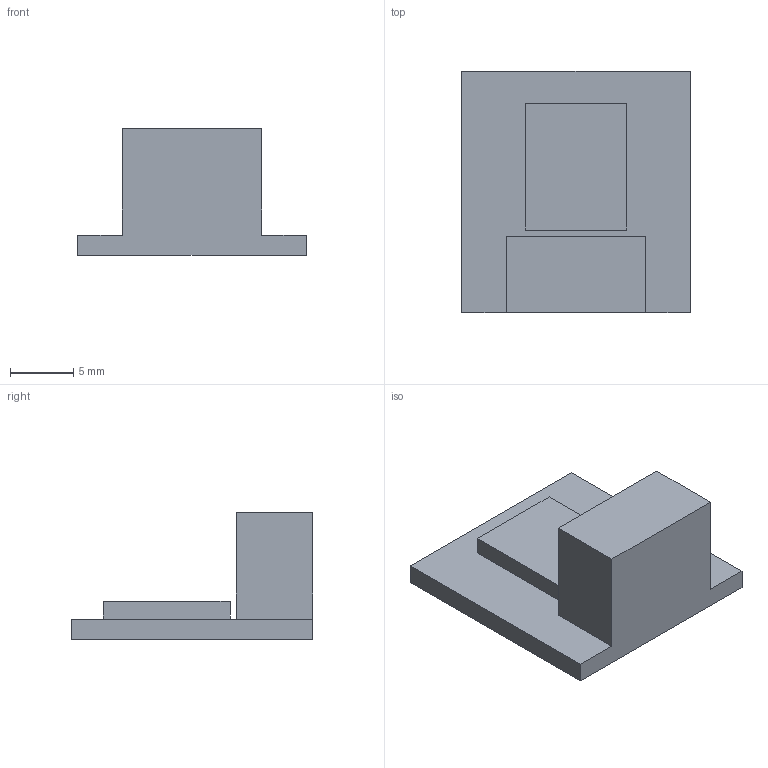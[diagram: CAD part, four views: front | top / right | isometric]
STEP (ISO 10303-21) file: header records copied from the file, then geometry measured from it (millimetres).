
FILE_DESCRIPTION(('Open CASCADE Model'),'2;1');
FILE_NAME('Open CASCADE Shape Model','2026-10-01T12:35:22',('Author'),( 'Open CASCADE'),'Open CASCADE STEP processor 7.8','Open CASCADE 7.8' ,'Unknown');
FILE_SCHEMA(('AUTOMOTIVE_DESIGN { 1 0 10303 214 1 1 1 1 }'));
Length unit declared in the file: millimetre
Products named in the file (2): E04_MAX98357_MD0860; E04_MAX98357_MD0860_solid
Assembly tree (1 placements, depth 2):
  E04_MAX98357_MD0860
    E04_MAX98357_MD0860_solid
Bounding box: 18 x 19 x 10 mm (x, y, z)
Volume: 1213.6 mm3; surface area: 1138.4 mm2
Topology: 1 solids, 1 shells, 15 faces, 36 edges, 24 vertices
Faces by surface type: plane 15
Entity records: 935 total; most frequent: CARTESIAN_POINT 149, DIRECTION 142, LINE 108, VECTOR 108, ORIENTED_EDGE 72, PCURVE 72, DEFINITIONAL_REPRESENTATION 72, EDGE_CURVE 36
